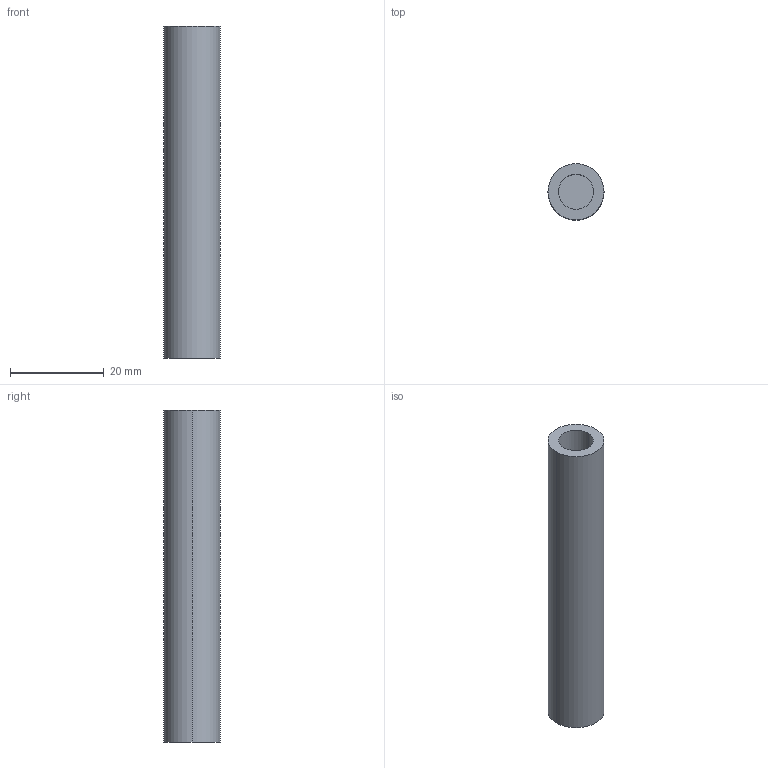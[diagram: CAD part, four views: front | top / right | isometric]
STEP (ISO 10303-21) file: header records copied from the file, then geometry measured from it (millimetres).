
FILE_DESCRIPTION (( 'STEP AP214' ), '1' );
FILE_NAME ('Optikit C-GL-25.STEP', '2020-05-19T08:22:56', ( '' ), ( '' ), 'SwSTEP 2.0', 'SolidWorks 2018', '' );
FILE_SCHEMA (( 'AUTOMOTIVE_DESIGN' ));
Length unit declared in the file: millimetre
Products named in the file (1): Optikit C-GL-25
Bounding box: 12 x 12 x 71 mm (x, y, z)
Volume: 5114.1 mm3; surface area: 4457.9 mm2
Topology: 1 solids, 1 shells, 10 faces, 18 edges, 12 vertices
Faces by surface type: cylinder 6, plane 4
Entity records: 288 total; most frequent: DIRECTION 52, CARTESIAN_POINT 41, ORIENTED_EDGE 36, AXIS2_PLACEMENT_3D 23, EDGE_CURVE 18, VERTEX_POINT 12, EDGE_LOOP 12, CIRCLE 12
